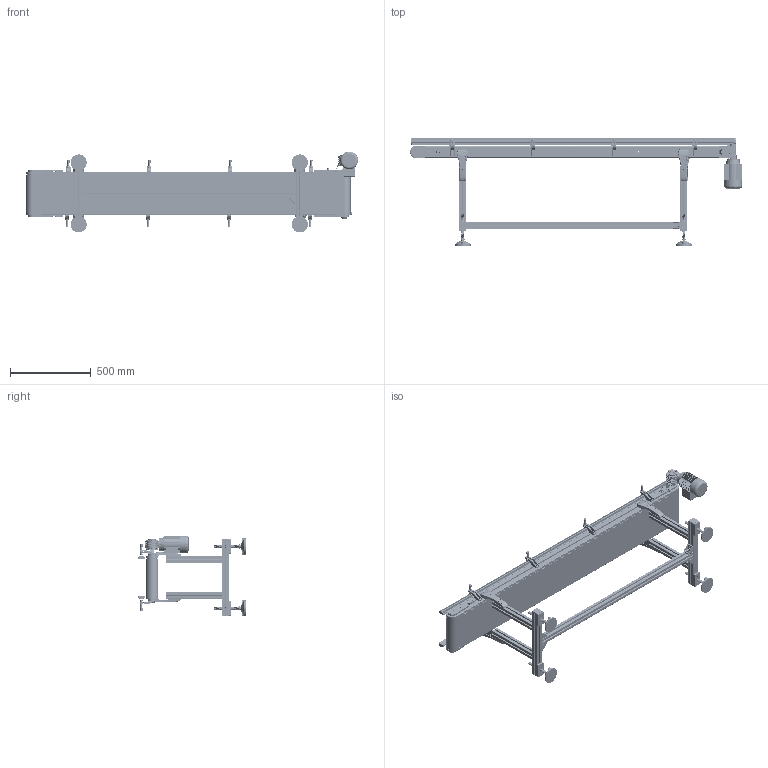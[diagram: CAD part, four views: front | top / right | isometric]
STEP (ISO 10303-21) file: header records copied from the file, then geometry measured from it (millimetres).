
FILE_DESCRIPTION (( 'STEP AP203' ), '1' );
FILE_NAME ('NASTRO_3020.step', '2026-04-21T14:00:01', ( 'Utente Windows' ), ( '' ), 'SwSTEP 2.0', 'SolidWorks 2024', '' );
FILE_SCHEMA (( 'CONFIG_CONTROL_DESIGN' ));
Length unit declared in the file: millimetre
Products named in the file (54): 3020.009.002; 3020.000.005; GAMBE_3020_Default<A macchina>; NASTRO_3020; TELAIO_3020_9_1_Default<A macchina>; VITI TE UNI 5739_M6x16 UNI 5739; 084.301.000 VITI ALUSIC1_084.301.003; 084.711.005; 2010.000.068; 084.302.000 DADI ALUSIC 13x13_084.302.004; 3020.009.007; 084.302.000 DADI ALUSIC 13x13-1_084.302.004; 2010.000.069; 084.711.010; DADI ESAGONALI NORMALI UNI 5588_M6 UNI 5588; SPONDA_DIRITTO_Default<A macchina>; RONDELLE UNI 6592_8.4x17 UNI 6592; 084.301.000 VITI ALUSIC_084.301.003; 3020.009.130_DX; 084.802.077_chiuso; 084.802.078_chiuso con cono; 084.201.012-1; 084.802.076_chiuso; 084.305.003-1; 084.405.001; 084.807.014_084.807.002; 084.807.003_084.807.003<A macchina>; 084.802.062; PIEDE; 084.711.006_L2; ANGOLARE_43; 084.402.005; 084.808.012; 084.302.000 DADI ALUSIC 13x13-1_084.302.009; 2010.000.070; 084.802.008; TRAVERSA_SINGOLA_Default<A macchina>; VITI TSEI UNI 5933 INOX_0410UNI5933A2; FLANGIA_GAMBA; 084.712.002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
Assembly tree (129 placements, depth 4):
  NASTRO_3020
    CATENA_3020_DIRITTO
    3020.009.130_DX
      084.807.003_084.807.003<A macchina>  x2
      084.802.017_084.802.017  x2
      084.301.000 VITI ALUSIC_084.301.003  x4
      084.302.000 DADI ALUSIC 13x13_084.302.004  x4
      3020.009.007
      VITI TSEI UNI 5933 INOX_0410UNI5933A2  x4
      CHIAVETTE_A 5x5x50 UNI 6604-69
      CHIAVETTE_A 5x5x30 UNI 6604-69  x3
      3020.000.005  x3
      RONDELLE FASCIA LARGA UNI 6593_6.4x24 UNI 6593
      VITI TE UNI 5739_M6x16 UNI 5739
      084.802.077_chiuso
      084.802.078_chiuso con cono
      084.808.012
      VITI TE UNI 5739_M8x16 UNI 5739
      084.802.062
      RONDELLE UNI 6592_8.4x17 UNI 6592
    3020.009.200
      084.802.008  x2
      084.301.000 VITI ALUSIC_084.301.003  x6
      084.302.000 DADI ALUSIC 13x13_084.302.004  x6
      3020.000.007
      3020.009.002
      084.807.014_084.807.002  x2
      084.802.076_chiuso  x2
      VITI TSEI UNI 5933 INOX_0410UNI5933A2  x4
    084.307.006
    TELAIO_3020_9_1_Default<A macchina>
    084.712.002  x4
    084.711.006_PER CAVA 8 PERNO ALTO 1  x8
      084.711.006_L1
      084.711.006_L2
      084.711.007
      084.711.005
      084.711.010
      DADI ESAGONALI NORMALI UNI 5588_M6 UNI 5588
    SPONDA_DIRITTO_Default<A macchina>
    GAMBE_3020_Default<A macchina>  x2
    FLANGIA_GAMBA  x4
      084.302.000 DADI ALUSIC 13x13-1_084.302.004
      RONDELLE UNI 6592_8.4x17 UNI 6592
      084.301.000 VITI ALUSIC_084.301.003
      2010.000.068
        2010.000.068_L
        2010.000.069
        2010.000.070
    PIEDE  x4
      084.405.001
      084.402.005
      084.301.000 VITI ALUSIC1_084.301.003
    084.201.012-1  x8
    ANGOLARE_43  x4
      084.305.003-1
      084.302.000 DADI ALUSIC 13x13-1_084.302.009
      084.301.000 VITI ALUSIC_084.301.003
    TRAVERSA_SINGOLA_Default<A macchina>
    CH03P_DX
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Bounding box: 2058.7 x 666.15 x 501.94 mm (x, y, z)
Volume: 22878625.9 mm3; surface area: 8115356.7 mm2
Topology: 258 solids, 262 shells, 13988 faces, 36149 edges, 22848 vertices
Faces by surface type: plane 5523, cylinder 4835, bspline 1284, cone 1282, torus 904, sphere 160
Entity records: 188752 total; most frequent: CARTESIAN_POINT 64015, ORIENTED_EDGE 25548, DIRECTION 23434, EDGE_CURVE 12774, AXIS2_PLACEMENT_3D 8226, VERTEX_POINT 8184, VECTOR 6982, LINE 6982
